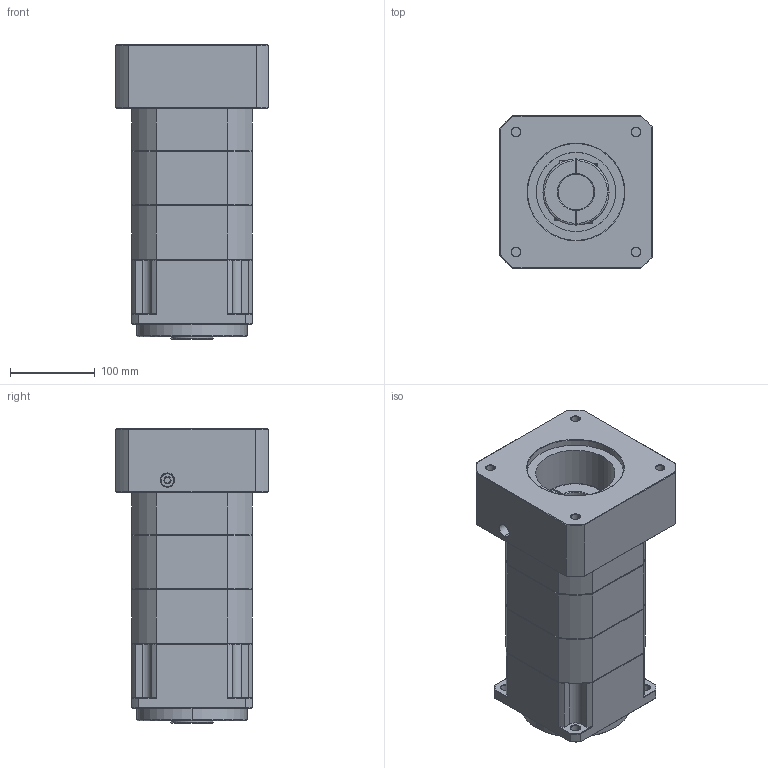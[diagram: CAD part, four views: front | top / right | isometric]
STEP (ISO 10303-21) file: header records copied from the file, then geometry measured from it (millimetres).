
FILE_DESCRIPTION (( 'STEP AP214' ), '1' );
FILE_NAME ('ZPB142-K35-L3-P1-42-114.3-200-M12.step', '2024-07-05T00:14:52', ( 'Windows 蚚誧' ), ( 'Organization' ), 'SwSTEP 2.0', 'SolidWorks 2016', '' );
FILE_SCHEMA (( 'AUTOMOTIVE_DESIGN' ));
Length unit declared in the file: millimetre
Products named in the file (1): ZPB142-K35-L3-P1-42-114.3-200-M12
Bounding box: 180 x 180 x 347.5 mm (x, y, z)
Surface area: 322334 mm2 (no closed solid volume)
Topology: 0 solids, 36 shells, 1798 faces, 4776 edges, 3054 vertices
Faces by surface type: plane 930, bspline 376, cone 274, cylinder 218
Entity records: 88232 total; most frequent: CARTESIAN_POINT 37925, ORIENTED_EDGE 9548, DIRECTION 7380, EDGE_CURVE 4776, VECTOR 3162, LINE 3162, VERTEX_POINT 3054, AXIS2_PLACEMENT_3D 2109
